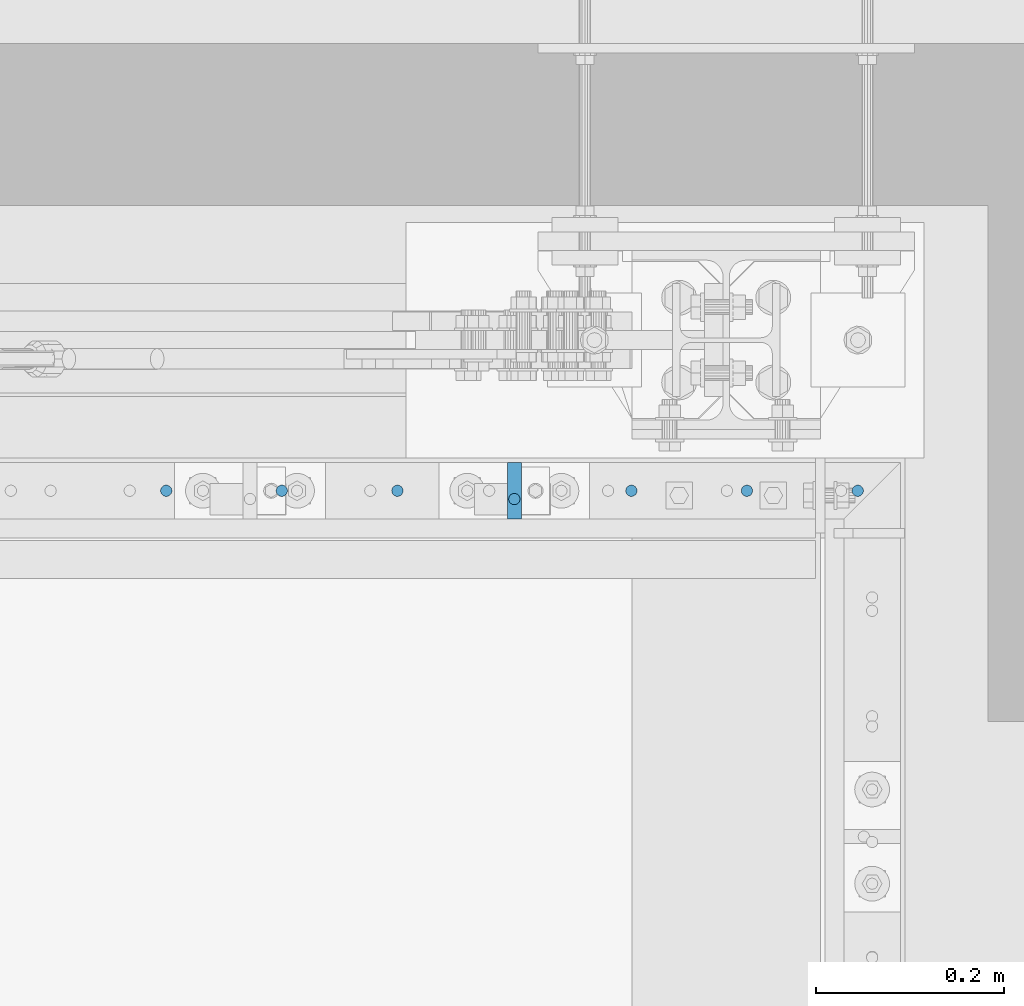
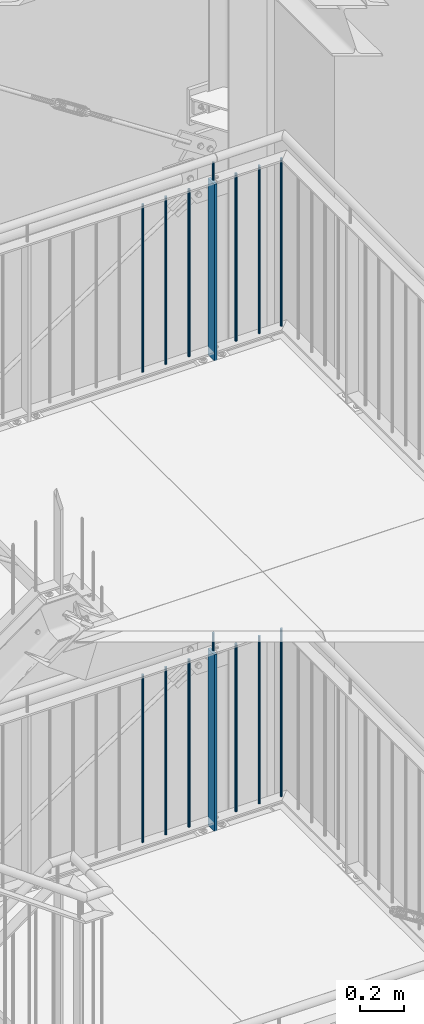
# One storey, part 110 of 825: 16 columns.
"""IFC2X3 building model written with IfcOpenShell, lengths in millimetres."""

from ifc_helpers import new_model, entity, si_unit, converted_unit, frame, origin, origin_with_axes, origin_2d, place, context, project, spatial, rectangle, circle, extrude, clip, halfspace, material, element, save


model = new_model("IFC2X3")

# Units and contexts
model_context = context("Model", 3, precision=1e-09, world=origin_with_axes())
ifc_project = project(units=[si_unit("LENGTHUNIT", "METRE", prefix="MILLI"), si_unit("AREAUNIT", "SQUARE_METRE"), si_unit("VOLUMEUNIT", "CUBIC_METRE"), converted_unit("PLANEANGLEUNIT", "DEGREE", entity("IfcPlaneAngleMeasure", 0.01745329), si_unit("PLANEANGLEUNIT", "RADIAN"), dimensions=[0, 0, 0, 0, 0, 0, 0])], contexts=[model_context])

# Site, building, storey
site_placement = place(None, origin_with_axes())
site = spatial("IfcSite", under=ifc_project, at=site_placement, Name="Cnopf'sche Kinderklinik", CompositionType="ELEMENT")
building_placement = place(site_placement, origin_with_axes())
building = spatial("IfcBuilding", under=site, at=building_placement, Name="Struktur 1", CompositionType="ELEMENT")
storey_placement = place(building_placement, origin_with_axes())
storey = spatial("IfcBuildingStorey", under=building, at=storey_placement, Name="Default Storey", CompositionType="ELEMENT", Elevation=0.0)

# Columns
ifc_material = material(Name="S235JR")
column_1_placement = place(None, frame((8641.713974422, 7356.736971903, 12305.223292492), z_axis=(0.0, 0.0, 1.0), x_axis=(1.0, 0.0, 0.0)))
element("IfcColumn", 1, at=column_1_placement, inside=storey, material=ifc_material, Name="Railing_Post_Landing#4", ObjectType="Railing_Post_Landing#4", context=model_context, shape_type="Clipping", body=[
    clip(clip(extrude(rectangle(XDim=15.0, YDim=60.0, at=origin_2d()), origin(), (0.0, 0.0, -1.0), 1070.646584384), halfspace(frame((-8641.713974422, -7356.736971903, -1019.722292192), z_axis=(0.0, 0.0, 1.0), x_axis=(1.0, 0.0, 0.0)), True)), halfspace(frame((-8641.713974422, -7356.736971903, -30.924292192), z_axis=(0.0, 0.0, -1.0), x_axis=(-1.0, 0.0, 0.0)), True)),
])
column_2_placement = place(None, frame((8271.963926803, 7356.736971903, 12287.785281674), z_axis=(0.0, 0.0, 1.0), x_axis=(1.0, 0.0, 0.0)))
element("IfcColumn", 2, at=column_2_placement, inside=storey, material=ifc_material, Name="Railing_Picket_Landing#25", ObjectType="Railing_Picket_Landing#25", context=model_context, shape_type="Clipping", body=[
    clip(clip(extrude(circle(Radius=6.0, at=origin_2d()), origin(), (0.0, 0.0, -1.0), 965.770562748), halfspace(frame((-8271.963926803, -7356.736971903, -13.486281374), z_axis=(0.0, 0.0, -1.0), x_axis=(-1.0, 0.0, 0.0)), True)), halfspace(frame((-8271.963926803, -7356.736971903, -952.284281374), z_axis=(0.0, 0.0, 1.0), x_axis=(1.0, 0.0, 0.0)), True)),
])
column_3_placement = place(None, frame((8394.713950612, 7356.736971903, 12287.785281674), z_axis=(0.0, 0.0, 1.0), x_axis=(1.0, 0.0, 0.0)))
element("IfcColumn", 3, at=column_3_placement, inside=storey, material=ifc_material, Name="Railing_Picket_Landing#26", ObjectType="Railing_Picket_Landing#26", context=model_context, shape_type="Clipping", body=[
    clip(clip(extrude(circle(Radius=6.0, at=origin_2d()), origin(), (0.0, 0.0, -1.0), 965.770562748), halfspace(frame((-8394.713950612, -7356.736971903, -13.486281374), z_axis=(0.0, 0.0, -1.0), x_axis=(-1.0, 0.0, 0.0)), True)), halfspace(frame((-8394.713950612, -7356.736971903, -952.284281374), z_axis=(0.0, 0.0, 1.0), x_axis=(1.0, 0.0, 0.0)), True)),
])
column_4_placement = place(None, frame((8517.463974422, 7356.736971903, 12287.785281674), z_axis=(0.0, 0.0, 1.0), x_axis=(1.0, 0.0, 0.0)))
element("IfcColumn", 4, at=column_4_placement, inside=storey, material=ifc_material, Name="Railing_Picket_Landing#27", ObjectType="Railing_Picket_Landing#27", context=model_context, shape_type="Clipping", body=[
    clip(clip(extrude(circle(Radius=6.0, at=origin_2d()), origin(), (0.0, 0.0, -1.0), 965.770562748), halfspace(frame((-8517.463974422, -7356.736971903, -13.486281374), z_axis=(0.0, 0.0, -1.0), x_axis=(-1.0, 0.0, 0.0)), True)), halfspace(frame((-8517.463974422, -7356.736971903, -952.284281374), z_axis=(0.0, 0.0, 1.0), x_axis=(1.0, 0.0, 0.0)), True)),
])
column_5_placement = place(None, frame((8765.963974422, 7356.736971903, 12287.785281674), z_axis=(0.0, 0.0, 1.0), x_axis=(1.0, 0.0, 0.0)))
element("IfcColumn", 5, at=column_5_placement, inside=storey, material=ifc_material, Name="Railing_Picket_Landing#28", ObjectType="Railing_Picket_Landing#28", context=model_context, shape_type="Clipping", body=[
    clip(clip(extrude(circle(Radius=6.0, at=origin_2d()), origin(), (0.0, 0.0, -1.0), 965.770562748), halfspace(frame((-8765.963974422, -7356.736971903, -13.486281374), z_axis=(0.0, 0.0, -1.0), x_axis=(-1.0, 0.0, 0.0)), True)), halfspace(frame((-8765.963974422, -7356.736971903, -952.284281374), z_axis=(0.0, 0.0, 1.0), x_axis=(1.0, 0.0, 0.0)), True)),
])
column_6_placement = place(None, frame((8888.713998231, 7356.736971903, 12287.785281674), z_axis=(0.0, 0.0, 1.0), x_axis=(1.0, 0.0, 0.0)))
element("IfcColumn", 6, at=column_6_placement, inside=storey, material=ifc_material, Name="Railing_Picket_Landing#29", ObjectType="Railing_Picket_Landing#29", context=model_context, shape_type="Clipping", body=[
    clip(clip(extrude(circle(Radius=6.0, at=origin_2d()), origin(), (0.0, 0.0, -1.0), 965.770562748), halfspace(frame((-8888.713998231, -7356.736971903, -13.486281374), z_axis=(0.0, 0.0, -1.0), x_axis=(-1.0, 0.0, 0.0)), True)), halfspace(frame((-8888.713998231, -7356.736971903, -952.284281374), z_axis=(0.0, 0.0, 1.0), x_axis=(1.0, 0.0, 0.0)), True)),
])
column_7_placement = place(None, frame((9006.464022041, 7356.736971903, 12287.785281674), z_axis=(0.0, 0.0, 1.0), x_axis=(1.0, 0.0, 0.0)))
element("IfcColumn", 7, at=column_7_placement, inside=storey, material=ifc_material, Name="Railing_Picket_Landing#30", ObjectType="Railing_Picket_Landing#30", context=model_context, shape_type="Clipping", body=[
    clip(clip(extrude(circle(Radius=6.0, at=origin_2d()), origin(), (0.0, 0.0, -1.0), 965.770562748), halfspace(frame((-9006.464022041, -7356.736971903, -13.486281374), z_axis=(0.0, 0.0, -1.0), x_axis=(-1.0, 0.0, 0.0)), True)), halfspace(frame((-9006.464022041, -7356.736971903, -952.284281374), z_axis=(0.0, 0.0, 1.0), x_axis=(1.0, 0.0, 0.0)), True)),
])
column_8_placement = place(None, frame((8641.713974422, 7347.936971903, 12392.785281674), z_axis=(0.0, 0.0, 1.0), x_axis=(0.0, -1.0, 0.0)))
element("IfcColumn", 8, at=column_8_placement, inside=storey, material=ifc_material, Name="Bar#4", ObjectType="Bar#4", context=model_context, shape_type="Clipping", body=[
    clip(clip(extrude(circle(Radius=6.0, at=origin_2d()), origin(), (0.0, 0.0, -1.0), 116.970562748), halfspace(frame((7347.936971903, -8641.713974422, -8.486281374), z_axis=(0.0, 0.0, -1.0), x_axis=(0.0, -1.0, 0.0)), True)), halfspace(frame((7347.936971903, -8641.713974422, -108.484281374), z_axis=(0.0, 0.0, 1.0), x_axis=(0.0, 1.0, 0.0)), True)),
])
column_9_placement = place(None, frame((8641.713974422, 7356.736971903, 14936.223292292), z_axis=(0.0, 0.0, 1.0), x_axis=(1.0, 0.0, 0.0)))
element("IfcColumn", 9, at=column_9_placement, inside=storey, material=ifc_material, Name="Railing_Post_Landing#4", ObjectType="Railing_Post_Landing#4", context=model_context, shape_type="Clipping", body=[
    clip(clip(extrude(rectangle(XDim=15.0, YDim=60.0, at=origin_2d()), origin(), (0.0, 0.0, -1.0), 1070.646584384), halfspace(frame((-8641.713974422, -7356.736971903, -1019.722292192), z_axis=(0.0, 0.0, 1.0), x_axis=(1.0, 0.0, 0.0)), True)), halfspace(frame((-8641.713974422, -7356.736971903, -30.924292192), z_axis=(0.0, 0.0, -1.0), x_axis=(-1.0, 0.0, 0.0)), True)),
])
column_10_placement = place(None, frame((8271.963926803, 7356.736971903, 14918.785281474), z_axis=(0.0, 0.0, 1.0), x_axis=(1.0, 0.0, 0.0)))
element("IfcColumn", 10, at=column_10_placement, inside=storey, material=ifc_material, Name="Railing_Picket_Landing#25", ObjectType="Railing_Picket_Landing#25", context=model_context, shape_type="Clipping", body=[
    clip(clip(extrude(circle(Radius=6.0, at=origin_2d()), origin(), (0.0, 0.0, -1.0), 965.770562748), halfspace(frame((-8271.963926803, -7356.736971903, -13.486281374), z_axis=(0.0, 0.0, -1.0), x_axis=(-1.0, 0.0, 0.0)), True)), halfspace(frame((-8271.963926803, -7356.736971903, -952.284281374), z_axis=(0.0, 0.0, 1.0), x_axis=(1.0, 0.0, 0.0)), True)),
])
column_11_placement = place(None, frame((8394.713950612, 7356.736971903, 14918.785281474), z_axis=(0.0, 0.0, 1.0), x_axis=(1.0, 0.0, 0.0)))
element("IfcColumn", 11, at=column_11_placement, inside=storey, material=ifc_material, Name="Railing_Picket_Landing#26", ObjectType="Railing_Picket_Landing#26", context=model_context, shape_type="Clipping", body=[
    clip(clip(extrude(circle(Radius=6.0, at=origin_2d()), origin(), (0.0, 0.0, -1.0), 965.770562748), halfspace(frame((-8394.713950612, -7356.736971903, -13.486281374), z_axis=(0.0, 0.0, -1.0), x_axis=(-1.0, 0.0, 0.0)), True)), halfspace(frame((-8394.713950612, -7356.736971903, -952.284281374), z_axis=(0.0, 0.0, 1.0), x_axis=(1.0, 0.0, 0.0)), True)),
])
column_12_placement = place(None, frame((8517.463974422, 7356.736971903, 14918.785281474), z_axis=(0.0, 0.0, 1.0), x_axis=(1.0, 0.0, 0.0)))
element("IfcColumn", 12, at=column_12_placement, inside=storey, material=ifc_material, Name="Railing_Picket_Landing#27", ObjectType="Railing_Picket_Landing#27", context=model_context, shape_type="Clipping", body=[
    clip(clip(extrude(circle(Radius=6.0, at=origin_2d()), origin(), (0.0, 0.0, -1.0), 965.770562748), halfspace(frame((-8517.463974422, -7356.736971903, -13.486281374), z_axis=(0.0, 0.0, -1.0), x_axis=(-1.0, 0.0, 0.0)), True)), halfspace(frame((-8517.463974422, -7356.736971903, -952.284281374), z_axis=(0.0, 0.0, 1.0), x_axis=(1.0, 0.0, 0.0)), True)),
])
column_13_placement = place(None, frame((8765.963974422, 7356.736971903, 14918.785281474), z_axis=(0.0, 0.0, 1.0), x_axis=(1.0, 0.0, 0.0)))
element("IfcColumn", 13, at=column_13_placement, inside=storey, material=ifc_material, Name="Railing_Picket_Landing#28", ObjectType="Railing_Picket_Landing#28", context=model_context, shape_type="Clipping", body=[
    clip(clip(extrude(circle(Radius=6.0, at=origin_2d()), origin(), (0.0, 0.0, -1.0), 965.770562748), halfspace(frame((-8765.963974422, -7356.736971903, -13.486281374), z_axis=(0.0, 0.0, -1.0), x_axis=(-1.0, 0.0, 0.0)), True)), halfspace(frame((-8765.963974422, -7356.736971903, -952.284281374), z_axis=(0.0, 0.0, 1.0), x_axis=(1.0, 0.0, 0.0)), True)),
])
column_14_placement = place(None, frame((8888.713998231, 7356.736971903, 14918.785281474), z_axis=(0.0, 0.0, 1.0), x_axis=(1.0, 0.0, 0.0)))
element("IfcColumn", 14, at=column_14_placement, inside=storey, material=ifc_material, Name="Railing_Picket_Landing#29", ObjectType="Railing_Picket_Landing#29", context=model_context, shape_type="Clipping", body=[
    clip(clip(extrude(circle(Radius=6.0, at=origin_2d()), origin(), (0.0, 0.0, -1.0), 965.770562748), halfspace(frame((-8888.713998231, -7356.736971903, -13.486281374), z_axis=(0.0, 0.0, -1.0), x_axis=(-1.0, 0.0, 0.0)), True)), halfspace(frame((-8888.713998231, -7356.736971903, -952.284281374), z_axis=(0.0, 0.0, 1.0), x_axis=(1.0, 0.0, 0.0)), True)),
])
column_15_placement = place(None, frame((9006.464022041, 7356.736971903, 14918.785281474), z_axis=(0.0, 0.0, 1.0), x_axis=(1.0, 0.0, 0.0)))
element("IfcColumn", 15, at=column_15_placement, inside=storey, material=ifc_material, Name="Railing_Picket_Landing#30", ObjectType="Railing_Picket_Landing#30", context=model_context, shape_type="Clipping", body=[
    clip(clip(extrude(circle(Radius=6.0, at=origin_2d()), origin(), (0.0, 0.0, -1.0), 965.770562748), halfspace(frame((-9006.464022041, -7356.736971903, -13.486281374), z_axis=(0.0, 0.0, -1.0), x_axis=(-1.0, 0.0, 0.0)), True)), halfspace(frame((-9006.464022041, -7356.736971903, -952.284281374), z_axis=(0.0, 0.0, 1.0), x_axis=(1.0, 0.0, 0.0)), True)),
])
column_16_placement = place(None, frame((8641.713974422, 7347.936971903, 15023.785281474), z_axis=(0.0, 0.0, 1.0), x_axis=(0.0, -1.0, 0.0)))
element("IfcColumn", 16, at=column_16_placement, inside=storey, material=ifc_material, Name="Bar#4", ObjectType="Bar#4", context=model_context, shape_type="Clipping", body=[
    clip(clip(extrude(circle(Radius=6.0, at=origin_2d()), origin(), (0.0, 0.0, -1.0), 116.970562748), halfspace(frame((7347.936971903, -8641.713974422, -8.486281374), z_axis=(0.0, 0.0, -1.0), x_axis=(0.0, -1.0, 0.0)), True)), halfspace(frame((7347.936971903, -8641.713974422, -108.484281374), z_axis=(0.0, 0.0, 1.0), x_axis=(0.0, 1.0, 0.0)), True)),
])

save(model, "model.ifc")
